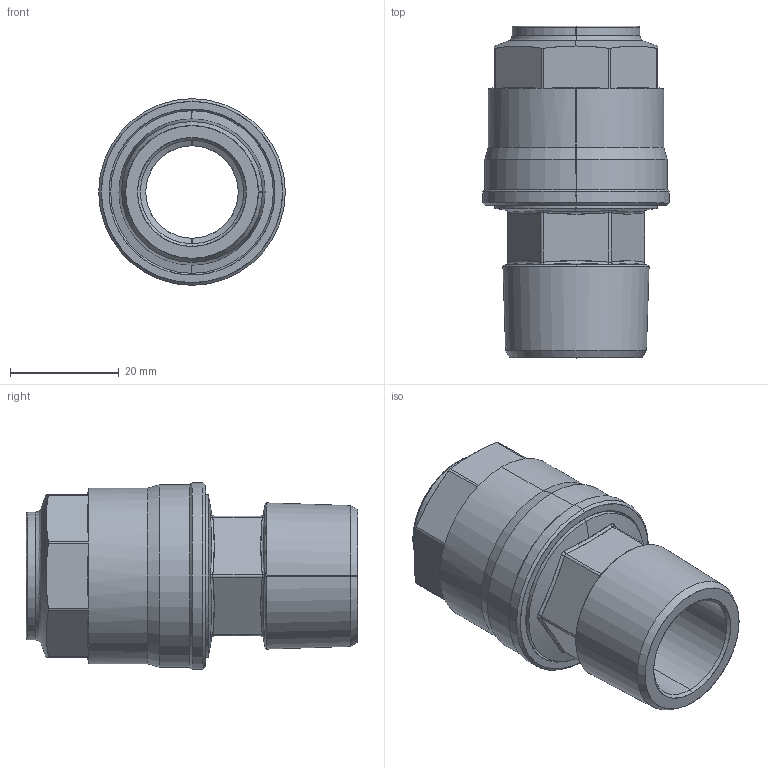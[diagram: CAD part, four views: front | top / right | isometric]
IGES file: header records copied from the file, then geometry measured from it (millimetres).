
Start section: SolidWorks IGES file using analytic representation for surfaces
Global section: file name: C:\Users\Cad02\Desktop\9001000009.IGS; native system: SolidWorks 2013; preprocessor: SolidWorks 2013; author: cad02; date: 140415.145055; units: millimetre
Bounding box: 34.3 x 61 x 34.3 mm (x, y, z)
Surface area: 10154.4 mm2 (no closed solid volume)
Topology: 0 solids, 0 shells, 98 faces, 1022 edges, 1022 vertices
Faces by surface type: revolution 51, bspline 47
